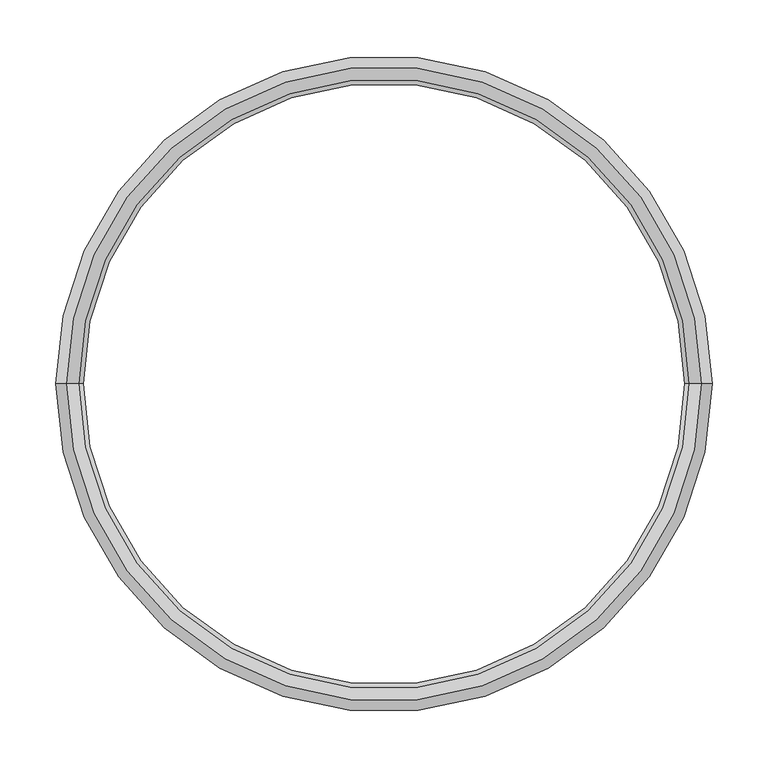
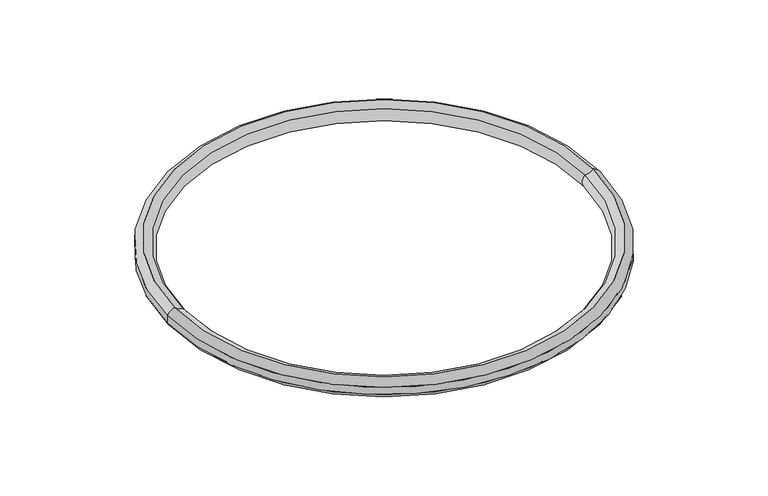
"""IFC4 building model written with IfcOpenShell, lengths in millimetres: proxy geometry, RSK C3 Chamber Ring : RSK C3 C.R."""

import ifcopenshell
import ifcopenshell.guid

model = None  # the IFC model being written
_history = None  # IfcOwnerHistory: only IFC2X3 demands one
_inside = {}  # id of a spatial element -> (the spatial element, [elements in it])
_under = {}  # id of a project, library or spatial element -> (it, [spatial elements below it])
_declared = {}  # id of a project -> (the project, [libraries it declares])
_typed = {}  # id of a type object -> (the type object, [elements of that type])
_made_of = {}  # id of a material, layer set ... -> (it, [elements and type objects made of it])


def new_model(schema):
    """Start an empty IFC model of exactly this schema.

    Asked for "IFC4X3", IfcOpenShell would pick the latest addendum, in which some entities
    have other attributes; the version numbers below select the first issue.
    IFC2X3 requires an IfcOwnerHistory on every rooted entity: one is made here for all.
    """
    global model, _history
    if schema == "IFC4X3":
        model = ifcopenshell.file(schema_version=(4, 3, 0, 0))
    else:
        model = ifcopenshell.file(schema=schema)
    _inside.clear()
    _under.clear()
    _declared.clear()
    _typed.clear()
    _made_of.clear()
    _history = None
    if model.schema == "IFC2X3":
        org = make("IfcOrganization", Name="unknown")
        user = make(
            "IfcPersonAndOrganization",
            ThePerson=make("IfcPerson", FamilyName="unknown"),
            TheOrganization=org,
        )
        app = make(
            "IfcApplication",
            ApplicationDeveloper=org,
            Version="unknown",
            ApplicationFullName="unknown",
            ApplicationIdentifier="unknown",
        )
        _history = make(
            "IfcOwnerHistory",
            OwningUser=user,
            OwningApplication=app,
            ChangeAction="ADDED",
            CreationDate=0,
        )
    return model


def make(cls, **values):
    """One entity of the class cls with the attributes given. An attribute that is None is left unset."""
    return model.create_entity(
        cls, **{name: value for name, value in values.items() if value is not None}
    )


def rooted(cls, **values):
    """An entity with a GlobalId (a new one), such as an element, a storey or a relation."""
    return make(cls, GlobalId=ifcopenshell.guid.new(), OwnerHistory=_history, **values)


def si_unit(unit_type, name, prefix=None):
    """IfcSIUnit, for example si_unit("LENGTHUNIT", "METRE", prefix="MILLI")."""
    return make("IfcSIUnit", UnitType=unit_type, Prefix=prefix, Name=name)


def assignment(units):
    """IfcUnitAssignment: the units of a project."""
    return None if units is None else make("IfcUnitAssignment", Units=units)


def point(xyz):
    """IfcCartesianPoint."""
    return None if xyz is None else make("IfcCartesianPoint", Coordinates=xyz)


def direction(xyz):
    """IfcDirection."""
    return None if xyz is None else make("IfcDirection", DirectionRatios=xyz)


def frame(location, z_axis=None, x_axis=None):
    """IfcAxis2Placement3D, a coordinate frame: its origin and axes. An axis left out is left unset."""
    return make(
        "IfcAxis2Placement3D",
        Location=point(location),
        Axis=direction(z_axis),
        RefDirection=direction(x_axis),
    )


def origin():
    """The frame at (0, 0, 0) with its axes left unset."""
    return frame((0.0, 0.0, 0.0))


def origin_with_axes():
    """The frame at (0, 0, 0) with the z axis (0, 0, 1) and the x axis (1, 0, 0) written out."""
    return frame((0.0, 0.0, 0.0), z_axis=(0.0, 0.0, 1.0), x_axis=(1.0, 0.0, 0.0))


def place(relative_to, where):
    """IfcLocalPlacement: puts the frame where relative to a parent placement (None: the world)."""
    return make(
        "IfcLocalPlacement", PlacementRelTo=relative_to, RelativePlacement=where
    )


def context(
    kind, dimensions, precision=None, world=None, true_north=None, identifier=None
):
    """IfcGeometricRepresentationContext, for example the 3D "Model" context."""
    return make(
        "IfcGeometricRepresentationContext",
        ContextIdentifier=identifier,
        ContextType=kind,
        CoordinateSpaceDimension=dimensions,
        Precision=precision,
        WorldCoordinateSystem=world,
        TrueNorth=true_north,
    )


def project(units=None, contexts=None):
    """IfcProject with its units and contexts."""
    return rooted(
        "IfcProject",
        Name="project",
        RepresentationContexts=contexts,
        UnitsInContext=assignment(units),
    )


def spatial(cls, under=None, at=None, **own):
    """A site, building, storey or space (cls), placed at a placement, below another one or the project."""
    s = rooted(cls, ObjectPlacement=at, **own)
    if under is not None:
        _under.setdefault(under.id(), (under, []))[1].append(s)
    return s


def circle_curve(where, radius):
    """IfcCircle in the frame where."""
    return make("IfcCircle", Position=where, Radius=radius)


def ellipse_curve(where, semi_axis1, semi_axis2):
    """IfcEllipse in the frame where."""
    return make(
        "IfcEllipse", Position=where, SemiAxis1=semi_axis1, SemiAxis2=semi_axis2
    )


def trimmed(basis, trim1, trim2, sense, master):
    """IfcTrimmedCurve: the piece of a basis curve between two trims."""
    return make(
        "IfcTrimmedCurve",
        BasisCurve=basis,
        Trim1=trim1,
        Trim2=trim2,
        SenseAgreement=sense,
        MasterRepresentation=master,
    )


def shape(context_of_items, identifier, shape_type, items):
    """IfcShapeRepresentation: the items that make up one representation, for example the "Body"."""
    return make(
        "IfcShapeRepresentation",
        ContextOfItems=context_of_items,
        RepresentationIdentifier=identifier,
        RepresentationType=shape_type,
        Items=items,
    )


def source(mapping_origin, context_of_items, identifier, shape_type, items):
    """IfcRepresentationMap: a shape defined once, which mapped items show again and again."""
    return make(
        "IfcRepresentationMap",
        MappingOrigin=mapping_origin,
        MappedRepresentation=shape(context_of_items, identifier, shape_type, items),
    )


def transform(
    local_origin,
    x_axis=None,
    y_axis=None,
    z_axis=None,
    scale=None,
    scale2=None,
    scale3=None,
    uniform=True,
):
    """IfcCartesianTransformationOperator3D, or its non-uniform kind. x_axis, y_axis, z_axis: its Axis1, 2, 3."""
    if uniform:
        return make(
            "IfcCartesianTransformationOperator3D",
            Axis1=direction(x_axis),
            Axis2=direction(y_axis),
            LocalOrigin=point(local_origin),
            Scale=scale,
            Axis3=direction(z_axis),
        )
    return make(
        "IfcCartesianTransformationOperator3DnonUniform",
        Axis1=direction(x_axis),
        Axis2=direction(y_axis),
        LocalOrigin=point(local_origin),
        Scale=scale,
        Axis3=direction(z_axis),
        Scale2=scale2,
        Scale3=scale3,
    )


def mapped(mapping_source, mapping_target):
    """IfcMappedItem: shows the shape of a source again, moved by a transform."""
    return make(
        "IfcMappedItem", MappingSource=mapping_source, MappingTarget=mapping_target
    )


def made_of(thing, what):
    """Note that an element or type object is made of a material, layer set ...; save() writes the relation."""
    if what is not None:
        _made_of.setdefault(what.id(), (what, []))[1].append(thing)
    return thing


def element(
    cls,
    number,
    at=None,
    inside=None,
    cuts=None,
    type_object=None,
    material=None,
    context=None,
    identifier="Body",
    shape_type=None,
    held_by="IfcProductDefinitionShape",
    body=None,
    shapes=None,
    **own,
):
    """One element of the class cls, such as IfcWall. Its Tag is "e" and its number.

    at: its placement. inside: the storey or other place that contains it. cuts: it is an
    opening in that element (IfcRelVoidsElement). A single representation is given by context,
    identifier, shape_type and body (its items); several are given by shapes. held_by: the class
    of the entity that holds the representations. save() writes the other relations.
    """
    e = rooted(cls, Tag="e%d" % number, ObjectPlacement=at, **own)
    if body is not None:
        shapes = [shape(context, identifier, shape_type, body)]
    if shapes is not None:
        e.Representation = make(held_by, Representations=shapes)
    if inside is not None:
        _inside.setdefault(inside.id(), (inside, []))[1].append(e)
    if cuts is not None:
        rooted(
            "IfcRelVoidsElement", RelatingBuildingElement=cuts, RelatedOpeningElement=e
        )
    if type_object is not None:
        _typed.setdefault(type_object.id(), (type_object, []))[1].append(e)
    return made_of(e, material)


def aggregate(whole, parts):
    """IfcRelAggregates: a whole, such as a stair, and the parts it consists of."""
    return rooted("IfcRelAggregates", RelatingObject=whole, RelatedObjects=parts)


def save(model, path):
    """Write the relations noted so far, then the file.

    IfcRelAggregates (storeys below a building ...), IfcRelContainedInSpatialStructure (elements
    in a storey), IfcRelDefinesByType, IfcRelAssociatesMaterial and IfcRelDeclares: one each for
    every whole, place, type object, material and project.
    """
    for whole, parts in _under.values():
        aggregate(whole, parts)
    for where, things in _inside.values():
        rooted(
            "IfcRelContainedInSpatialStructure",
            RelatedElements=things,
            RelatingStructure=where,
        )
    for kind, things in _typed.values():
        rooted("IfcRelDefinesByType", RelatedObjects=things, RelatingType=kind)
    for what, things in _made_of.values():
        rooted("IfcRelAssociatesMaterial", RelatedObjects=things, RelatingMaterial=what)
    for by, libraries in _declared.values():
        rooted("IfcRelDeclares", RelatingContext=by, RelatedDefinitions=libraries)
    model.write(path)


def cylinder_surface(at, radius):
    """IfcCylindricalSurface: all points at the distance radius from the z axis of the frame at."""
    return make("IfcCylindricalSurface", Position=at, Radius=radius)


def revolved_surface(curve, axis_point, axis_direction):
    """IfcSurfaceOfRevolution: the curve turned about the line through axis_point along axis_direction."""
    return make(
        "IfcSurfaceOfRevolution",
        SweptCurve=make("IfcArbitraryOpenProfileDef", ProfileType="CURVE", Curve=curve),
        AxisPosition=make("IfcAxis1Placement", Location=point(axis_point), Axis=direction(axis_direction)),
    )


def advanced_brep(points, edges, surfaces, faces):
    """IfcAdvancedBrep: a solid bounded by faces that lie on surfaces and meet in shared edges.

    An edge is (start, end): straight between two places in points (the first is 0);
    or (start, end, curve); or (start, end, curve, False) where it runs against its curve.
    A face is (place in surfaces, loops), or (place, loops, False) where it looks against
    its surface's normal. A loop lists edges by number (the first is 1), with a minus sign
    where the edge is run from its end to its start. The first loop is the outer one.
    """
    corners = [point(p) for p in points]
    vertices = [make("IfcVertexPoint", VertexGeometry=c) for c in corners]
    made = []
    for start, end, *more in edges:
        made.append(
            make(
                "IfcEdgeCurve",
                EdgeStart=vertices[start],
                EdgeEnd=vertices[end],
                EdgeGeometry=more[0] if more else make("IfcPolyline", Points=[corners[start], corners[end]]),
                SameSense=more[1] if len(more) > 1 else True,
            )
        )
    hull = []
    for where, loops, *sense in faces:
        bounds = []
        for j, loop in enumerate(loops):
            ring = [make("IfcOrientedEdge", EdgeElement=made[abs(k) - 1], Orientation=k > 0) for k in loop]
            bounds.append(
                make(
                    "IfcFaceOuterBound" if j == 0 else "IfcFaceBound",
                    Bound=make("IfcEdgeLoop", EdgeList=ring),
                    Orientation=True,
                )
            )
        hull.append(make("IfcAdvancedFace", Bounds=bounds, FaceSurface=surfaces[where], SameSense=sense[0] if sense else True))
    return make("IfcAdvancedBrep", Outer=make("IfcClosedShell", CfsFaces=hull))


def generic_models_c564d4c1(model_context):
    return source(origin(), model_context, "Body", "AdvancedBrep", [
        advanced_brep(
        [(283.8795111, 0.0, -13.9713776), (-283.8795111, 0.0, -13.9713776), (-273.1723142, 0.0, -8.6245409), (273.1723142, 0.0, -8.6245409), (273.1723142, 0.0, 8.6245409), (-273.1723142, 0.0, 8.6245409), (-283.8795111, 0.0, 13.9713776), (283.8795111, 0.0, 13.9713776), (293.5, 0.0, -5.2915026), (-293.5, 0.0, -5.2915026), (293.5, 0.0, 5.2915026), (-293.5, 0.0, 5.2915026)],
        [
            (0, 1, circle_curve(frame((0.0, 0.0, -13.9713776), z_axis=(0.0, 0.0, -1.0), x_axis=(-1.0, 0.0, 0.0)), 283.8795111)),
            (1, 2, circle_curve(frame((-270.0, 0.0, -28.3713488), z_axis=(0.0, 1.0, 0.0), x_axis=(-1.0, 0.0, 0.0)), 20.0)),
            (2, 3, circle_curve(frame((0.0, 0.0, -8.6245409), z_axis=(0.0, 0.0, 1.0), x_axis=(-1.0, 0.0, 0.0)), 273.1723142)),
            (3, 0, circle_curve(frame((270.0, 0.0, -28.3713488), z_axis=(0.0, 1.0, 0.0), x_axis=(1.0, 0.0, 0.0)), 20.0)),
            (4, 5, circle_curve(frame((0.0, 0.0, 8.6245409), z_axis=(0.0, 0.0, -1.0), x_axis=(-1.0, 0.0, 0.0)), 273.1723142)),
            (5, 6, circle_curve(frame((-270.0, 0.0, 28.3713488), z_axis=(0.0, 1.0, 0.0), x_axis=(-1.0, 0.0, 0.0)), 20.0)),
            (6, 7, circle_curve(frame((0.0, 0.0, 13.9713776), z_axis=(0.0, 0.0, 1.0), x_axis=(-1.0, 0.0, 0.0)), 283.8795111)),
            (7, 4, circle_curve(frame((270.0, 0.0, 28.3713488), z_axis=(0.0, 1.0, 0.0), x_axis=(1.0, 0.0, 0.0)), 20.0)),
            (2, 5, circle_curve(frame((-280.0, 0.0, 0.0), z_axis=(0.0, -1.0, 0.0), x_axis=(-1.0, 0.0, 0.0)), 11.0)),
            (4, 3, circle_curve(frame((280.0, 0.0, 0.0), z_axis=(0.0, -1.0, 0.0), x_axis=(1.0, 0.0, 0.0)), 11.0)),
            (1, 0, circle_curve(frame((0.0, 0.0, -13.9713776), z_axis=(0.0, 0.0, -1.0), x_axis=(1.0, 0.0, 0.0)), 283.8795111)),
            (3, 2, circle_curve(frame((0.0, 0.0, -8.6245409), z_axis=(0.0, 0.0, 1.0), x_axis=(1.0, 0.0, 0.0)), 273.1723142)),
            (5, 4, circle_curve(frame((0.0, 0.0, 8.6245409), z_axis=(0.0, 0.0, -1.0), x_axis=(1.0, 0.0, 0.0)), 273.1723142)),
            (7, 6, circle_curve(frame((0.0, 0.0, 13.9713776), z_axis=(0.0, 0.0, 1.0), x_axis=(1.0, 0.0, 0.0)), 283.8795111)),
            (8, 9, circle_curve(frame((0.0, 0.0, -5.2915026), z_axis=(0.0, 0.0, -1.0), x_axis=(-1.0, 0.0, 0.0)), 293.5)),
            (9, 1, circle_curve(frame((-280.0, 0.0, 0.0), z_axis=(0.0, -1.0, 0.0), x_axis=(-1.0, 0.0, 0.0)), 14.5)),
            (0, 8, circle_curve(frame((280.0, 0.0, 0.0), z_axis=(0.0, -1.0, 0.0), x_axis=(1.0, 0.0, 0.0)), 14.5)),
            (10, 11, circle_curve(frame((0.0, 0.0, 5.2915026), z_axis=(0.0, 0.0, -1.0), x_axis=(-1.0, 0.0, 0.0)), 293.5)),
            (11, 9),
            (8, 10),
            (6, 11, circle_curve(frame((-280.0, 0.0, 0.0), z_axis=(0.0, -1.0, 0.0), x_axis=(-1.0, 0.0, 0.0)), 14.5)),
            (10, 7, circle_curve(frame((280.0, 0.0, 0.0), z_axis=(0.0, -1.0, 0.0), x_axis=(1.0, 0.0, 0.0)), 14.5)),
            (9, 8, circle_curve(frame((0.0, 0.0, -5.2915026), z_axis=(0.0, 0.0, -1.0), x_axis=(1.0, 0.0, 0.0)), 293.5)),
            (11, 10, circle_curve(frame((0.0, 0.0, 5.2915026), z_axis=(0.0, 0.0, -1.0), x_axis=(1.0, 0.0, 0.0)), 293.5)),
        ],
        [
            revolved_surface(trimmed(ellipse_curve(frame((-270.0, 0.0, -28.3713488), z_axis=(0.0, -1.0, 0.0), x_axis=(-1.0, 0.0, 0.0)), 20.0, 20.0), [point((-273.1723142, 0.0, -8.6245409))], [point((-283.8795111, 0.0, -13.9713776))], True, "CARTESIAN"), (0.0, 0.0, 0.0), (0.0, 0.0, 1.0)),
            revolved_surface(trimmed(ellipse_curve(frame((-270.0, 0.0, 28.3713488), z_axis=(0.0, -1.0, 0.0), x_axis=(-1.0, 0.0, 0.0)), 20.0, 20.0), [point((-283.8795111, 0.0, 13.9713776))], [point((-273.1723142, 0.0, 8.6245409))], True, "CARTESIAN"), (0.0, 0.0, 0.0), (0.0, 0.0, 1.0)),
            revolved_surface(trimmed(ellipse_curve(frame((-280.0, 0.0, 0.0), z_axis=(0.0, 1.0, 0.0), x_axis=(-1.0, 0.0, 0.0)), 11.0, 11.0), [point((-273.1723142, 0.0, 8.6245409))], [point((-273.1723142, 0.0, -8.6245409))], True, "CARTESIAN"), (0.0, 0.0, 0.0), (0.0, 0.0, 1.0)),
            revolved_surface(trimmed(ellipse_curve(frame((270.0, 0.0, -28.3713488), z_axis=(0.0, 1.0, 0.0), x_axis=(1.0, 0.0, 0.0)), 20.0, 20.0), [point((273.1723142, 0.0, -8.6245409))], [point((283.8795111, 0.0, -13.9713776))], True, "CARTESIAN"), (0.0, 0.0, 0.0), (0.0, 0.0, 1.0)),
            revolved_surface(trimmed(ellipse_curve(frame((270.0, 0.0, 28.3713488), z_axis=(0.0, 1.0, 0.0), x_axis=(1.0, 0.0, 0.0)), 20.0, 20.0), [point((283.8795111, 0.0, 13.9713776))], [point((273.1723142, 0.0, 8.6245409))], True, "CARTESIAN"), (0.0, 0.0, 0.0), (0.0, 0.0, 1.0)),
            revolved_surface(trimmed(ellipse_curve(frame((280.0, 0.0, 0.0), z_axis=(0.0, -1.0, 0.0), x_axis=(1.0, 0.0, 0.0)), 11.0, 11.0), [point((273.1723142, 0.0, 8.6245409))], [point((273.1723142, 0.0, -8.6245409))], True, "CARTESIAN"), (0.0, 0.0, 0.0), (0.0, 0.0, 1.0)),
            revolved_surface(trimmed(ellipse_curve(frame((-280.0, 0.0, 0.0), z_axis=(0.0, 1.0, 0.0), x_axis=(-1.0, 0.0, 0.0)), 14.5, 14.5), [point((-283.8795111, 0.0, -13.9713776))], [point((-293.5, 0.0, -5.2915026))], True, "CARTESIAN"), (0.0, 0.0, 0.0), (0.0, 0.0, 1.0)),
            cylinder_surface(frame((0.0, 0.0, 0.0), z_axis=(0.0, 0.0, 1.0), x_axis=(-1.0, 0.0, 0.0)), 293.5),
            revolved_surface(trimmed(ellipse_curve(frame((-280.0, 0.0, 0.0), z_axis=(0.0, 1.0, 0.0), x_axis=(-1.0, 0.0, 0.0)), 14.5, 14.5), [point((-293.5, 0.0, 5.2915026))], [point((-283.8795111, 0.0, 13.9713776))], True, "CARTESIAN"), (0.0, 0.0, 0.0), (0.0, 0.0, 1.0)),
            revolved_surface(trimmed(ellipse_curve(frame((280.0, 0.0, 0.0), z_axis=(0.0, -1.0, 0.0), x_axis=(1.0, 0.0, 0.0)), 14.5, 14.5), [point((283.8795111, 0.0, -13.9713776))], [point((293.5, 0.0, -5.2915026))], True, "CARTESIAN"), (0.0, 0.0, 0.0), (0.0, 0.0, 1.0)),
            cylinder_surface(origin_with_axes(), 293.5),
            revolved_surface(trimmed(ellipse_curve(frame((280.0, 0.0, 0.0), z_axis=(0.0, -1.0, 0.0), x_axis=(1.0, 0.0, 0.0)), 14.5, 14.5), [point((293.5, 0.0, 5.2915026))], [point((283.8795111, 0.0, 13.9713776))], True, "CARTESIAN"), (0.0, 0.0, 0.0), (0.0, 0.0, 1.0)),
        ],
        [
            (0, [[1, 2, 3, 4]]),
            (1, [[5, 6, 7, 8]]),
            (2, [[-3, 9, -5, 10]]),
            (3, [[11, -4, 12, -2]]),
            (4, [[13, -8, 14, -6]]),
            (5, [[-12, -10, -13, -9]]),
            (6, [[15, 16, -1, 17]]),
            (7, [[18, 19, -15, 20]]),
            (8, [[-7, 21, -18, 22]]),
            (9, [[23, -17, -11, -16]]),
            (10, [[24, -20, -23, -19]]),
            (11, [[-14, -22, -24, -21]]),
        ],
    ),
    ])


if __name__ == "__main__":
    model = new_model("IFC4")
    model_context = context("Model", 3, world=origin())
    ifc_project = project(units=[si_unit("LENGTHUNIT", "METRE", prefix="MILLI")], contexts=[model_context])
    site = spatial("IfcSite", under=ifc_project)
    building = spatial("IfcBuilding", under=site)
    placement = place(None, origin())
    generic_models_shape = generic_models_c564d4c1(model_context)
    element("IfcBuildingElementProxy", 1, Name="RSK C3 Chamber Ring : RSK C3 C.R", ObjectType="RSK C3 Chamber Ring : RSK C3 C.R", at=placement, inside=building, context=model_context, shape_type="MappedRepresentation", body=[
        mapped(generic_models_shape, transform((0.0, 0.0, 0.0), x_axis=(1.0, 0.0, 0.0), y_axis=(0.0, 1.0, 0.0), z_axis=(0.0, 0.0, 1.0))),
    ])
    save(model, "model.ifc")
